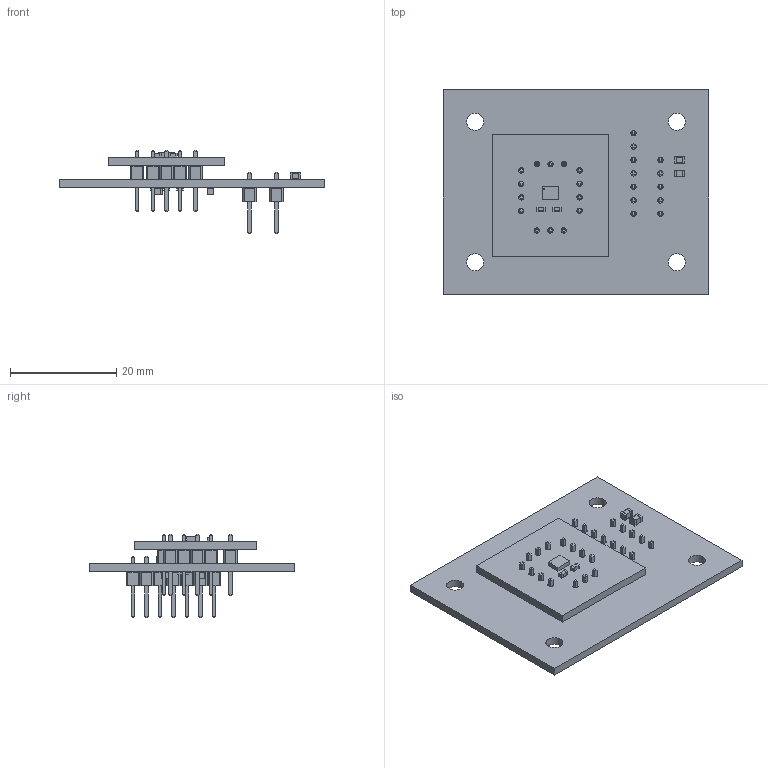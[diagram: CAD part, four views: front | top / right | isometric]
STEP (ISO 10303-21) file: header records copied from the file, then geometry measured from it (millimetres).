
FILE_DESCRIPTION(('KiCad electronic assembly'),'2;1');
FILE_NAME('LiDar Baseboard (Angle Measurement) V1.step', '2026-02-17T03:53:46',('Pcbnew'),('Kicad'), 'Open CASCADE STEP processor 7.9','KiCad to STEP converter','Unknown' );
FILE_SCHEMA(('AUTOMOTIVE_DESIGN { 1 0 10303 214 1 1 1 1 }'));
Length unit declared in the file: millimetre
Products named in the file (12): LiDar Baseboard (Angle Measurement) V1 1; C_0805_2012Metric; Breakout STM-LSM6DSOQTR V1; C_0603_1608Metric; LSM6DSO; PinHeader_1x03_P2.54mm_Vertical; PinHeader_1x04_P2.54mm_Vertical; Breakout STM-LSM6DSOQTR V1_PCB; R_0805_2012Metric; PinHeader_1x07_P2.54mm_Vertical; PinHeader_1x05_P2.54mm_Vertical; LiDar Baseboard (Angle Measurement) V1_PCB
Assembly tree (19 placements, depth 3):
  LiDar Baseboard (Angle Measurement) V1 1
    C_0805_2012Metric  x4
    Breakout STM-LSM6DSOQTR V1
      C_0603_1608Metric  x2
      LSM6DSO
      PinHeader_1x03_P2.54mm_Vertical  x2
      PinHeader_1x04_P2.54mm_Vertical  x2
      Breakout STM-LSM6DSOQTR V1_PCB
    R_0805_2012Metric  x3
    PinHeader_1x07_P2.54mm_Vertical
    PinHeader_1x05_P2.54mm_Vertical
    LiDar Baseboard (Angle Measurement) V1_PCB
Bounding box: 50 x 38.5 x 15.68 mm (x, y, z)
Volume: 4109.8 mm3; surface area: 6845.4 mm2
Topology: 33 solids, 33 shells, 1044 faces, 2522 edges, 1608 vertices
Faces by surface type: plane 902, cylinder 142
Full cylindrical faces by diameter (mm): 1 x40, 3.2 x4
Entity records: 24296 total; most frequent: CARTESIAN_POINT 3472, ORIENTED_EDGE 3360, DIRECTION 3284, EDGE_CURVE 1680, LINE 1524, VECTOR 1524, VERTEX_POINT 1068, AXIS2_PLACEMENT_3D 880
